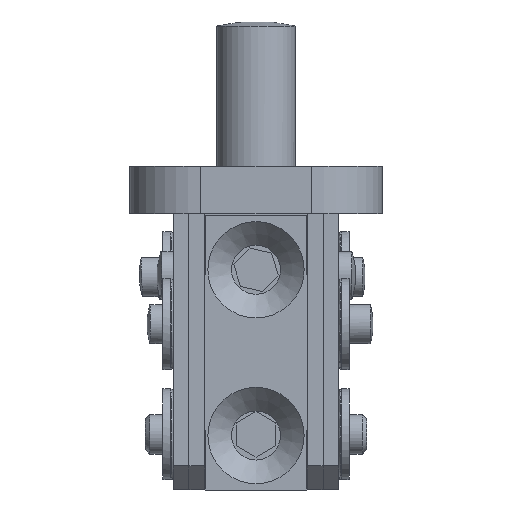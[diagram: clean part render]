
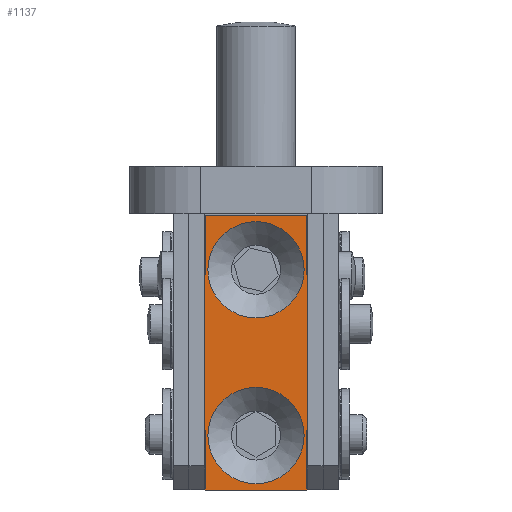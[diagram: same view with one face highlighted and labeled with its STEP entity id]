
A CAD part, left-side view. The second image highlights one B-rep face of the part: STEP entity #1137.
In plain terms, the highlighted planar face has unit normal (-1, 0, 0).
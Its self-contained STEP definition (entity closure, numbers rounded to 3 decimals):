
#94 = CARTESIAN_POINT ( 'NONE',  ( -60.629, 6.45, -37.273 ) ) ;
#204 = CARTESIAN_POINT ( 'NONE',  ( -60.629, -6.45, -33.523 ) ) ;
#239 = DIRECTION ( 'NONE',  ( 0., 1., 0. ) ) ;
#359 = VECTOR ( 'NONE', #3431, 1000. ) ;
#361 = CARTESIAN_POINT ( 'NONE',  ( -60.629, -7.35, -33.523 ) ) ;
#372 = EDGE_CURVE ( 'NONE', #2809, #3444, #15196, .T. ) ;
#519 = EDGE_CURVE ( 'NONE', #1839, #2809, #15044, .T. ) ;
#647 = ORIENTED_EDGE ( 'NONE', *, *, #10215, .F. ) ;
#654 = CARTESIAN_POINT ( 'NONE',  ( -60.629, 6.45, -13.723 ) ) ;
#781 = DIRECTION ( 'NONE',  ( 0., -1., 0. ) ) ;
#802 = DIRECTION ( 'NONE',  ( 0., 0., 1. ) ) ;
#921 = VERTEX_POINT ( 'NONE', #13840 ) ;
#1061 = EDGE_CURVE ( 'NONE', #3444, #3161, #9646, .T. ) ;
#1137 = ADVANCED_FACE ( 'NONE', ( #6412, #13596, #6098 ), #8782, .T. ) ;
#1157 = DIRECTION ( 'NONE',  ( 0., 0., 1. ) ) ;
#1176 = CARTESIAN_POINT ( 'NONE',  ( -60.629, 6.45, -41.023 ) ) ;
#1246 = EDGE_CURVE ( 'NONE', #4509, #10628, #12099, .T. ) ;
#1446 = EDGE_CURVE ( 'NONE', #14964, #4509, #5730, .T. ) ;
#1479 = DIRECTION ( 'NONE',  ( 0., 1., 0. ) ) ;
#1578 = VERTEX_POINT ( 'NONE', #3803 ) ;
#1839 = VERTEX_POINT ( 'NONE', #3360 ) ;
#1863 = CIRCLE ( 'NONE', #10689, 6.1 ) ;
#2216 = EDGE_CURVE ( 'NONE', #921, #4906, #6500, .T. ) ;
#2234 = CARTESIAN_POINT ( 'NONE',  ( -60.629, -8.25, -23.623 ) ) ;
#2294 = CARTESIAN_POINT ( 'NONE',  ( -60.629, 0., -13.123 ) ) ;
#2450 = LINE ( 'NONE', #6001, #5085 ) ;
#2455 = DIRECTION ( 'NONE',  ( 1., 0., 0. ) ) ;
#2474 = VECTOR ( 'NONE', #9029, 1000. ) ;
#2623 = CARTESIAN_POINT ( 'NONE',  ( -60.629, -8.25, -13.723 ) ) ;
#2809 = VERTEX_POINT ( 'NONE', #13934 ) ;
#2929 = LINE ( 'NONE', #3158, #12216 ) ;
#3158 = CARTESIAN_POINT ( 'NONE',  ( -60.629, -6.45, -37.273 ) ) ;
#3161 = VERTEX_POINT ( 'NONE', #6887 ) ;
#3266 = CARTESIAN_POINT ( 'NONE',  ( -60.629, 8.25, -23.623 ) ) ;
#3269 = DIRECTION ( 'NONE',  ( 0., -1., 0. ) ) ;
#3360 = CARTESIAN_POINT ( 'NONE',  ( -60.629, -6.45, -6.223 ) ) ;
#3431 = DIRECTION ( 'NONE',  ( 0., 0., -1. ) ) ;
#3444 = VERTEX_POINT ( 'NONE', #2623 ) ;
#3489 = DIRECTION ( 'NONE',  ( 0., 1., 0. ) ) ;
#3511 = ORIENTED_EDGE ( 'NONE', *, *, #8885, .T. ) ;
#3538 = EDGE_LOOP ( 'NONE', ( #6432 ) ) ;
#3803 = CARTESIAN_POINT ( 'NONE',  ( -60.629, 0., -28.023 ) ) ;
#3935 = ORIENTED_EDGE ( 'NONE', *, *, #519, .F. ) ;
#4235 = CARTESIAN_POINT ( 'NONE',  ( -60.629, -6.45, -9.973 ) ) ;
#4276 = CARTESIAN_POINT ( 'NONE',  ( -60.629, 6.45, -6.223 ) ) ;
#4386 = ORIENTED_EDGE ( 'NONE', *, *, #10471, .F. ) ;
#4509 = VERTEX_POINT ( 'NONE', #1176 ) ;
#4791 = EDGE_LOOP ( 'NONE', ( #10373, #8950, #3935, #7027, #14752, #11909, #5092, #647, #9287, #13262, #8168, #4386, #11585, #6353 ) ) ;
#4896 = CARTESIAN_POINT ( 'NONE',  ( -60.629, 0., -7.023 ) ) ;
#4906 = VERTEX_POINT ( 'NONE', #204 ) ;
#4977 = DIRECTION ( 'NONE',  ( 0., 0., 1. ) ) ;
#5034 = LINE ( 'NONE', #361, #8645 ) ;
#5071 = DIRECTION ( 'NONE',  ( 0., 0., 1. ) ) ;
#5085 = VECTOR ( 'NONE', #3489, 1000. ) ;
#5092 = ORIENTED_EDGE ( 'NONE', *, *, #10725, .F. ) ;
#5472 = LINE ( 'NONE', #7842, #7965 ) ;
#5482 = DIRECTION ( 'NONE',  ( 0., -1., 0. ) ) ;
#5730 = LINE ( 'NONE', #15063, #12342 ) ;
#6001 = CARTESIAN_POINT ( 'NONE',  ( -60.629, 7.35, -33.523 ) ) ;
#6006 = CARTESIAN_POINT ( 'NONE',  ( -60.629, 8.25, -13.723 ) ) ;
#6026 = VECTOR ( 'NONE', #5071, 1000. ) ;
#6098 = FACE_OUTER_BOUND ( 'NONE', #4791, .T. ) ;
#6102 = VERTEX_POINT ( 'NONE', #654 ) ;
#6180 = DIRECTION ( 'NONE',  ( -1., 0., 0. ) ) ;
#6235 = CARTESIAN_POINT ( 'NONE',  ( -60.629, 6.45, -33.523 ) ) ;
#6321 = CARTESIAN_POINT ( 'NONE',  ( -60.629, 0., -33.523 ) ) ;
#6353 = ORIENTED_EDGE ( 'NONE', *, *, #15349, .F. ) ;
#6412 = FACE_BOUND ( 'NONE', #3538, .T. ) ;
#6422 = VECTOR ( 'NONE', #4977, 1000. ) ;
#6432 = ORIENTED_EDGE ( 'NONE', *, *, #11971, .T. ) ;
#6452 = EDGE_CURVE ( 'NONE', #13466, #1839, #5472, .T. ) ;
#6500 = LINE ( 'NONE', #7601, #13570 ) ;
#6537 = VERTEX_POINT ( 'NONE', #15345 ) ;
#6538 = VERTEX_POINT ( 'NONE', #14162 ) ;
#6656 = LINE ( 'NONE', #3266, #11976 ) ;
#6674 = VECTOR ( 'NONE', #239, 1000. ) ;
#6887 = CARTESIAN_POINT ( 'NONE',  ( -60.629, -8.25, -33.523 ) ) ;
#7027 = ORIENTED_EDGE ( 'NONE', *, *, #6452, .F. ) ;
#7259 = VECTOR ( 'NONE', #5482, 1000. ) ;
#7601 = CARTESIAN_POINT ( 'NONE',  ( -60.629, -7.35, -33.523 ) ) ;
#7842 = CARTESIAN_POINT ( 'NONE',  ( -60.629, 0., -6.223 ) ) ;
#7965 = VECTOR ( 'NONE', #3269, 1000. ) ;
#8007 = CARTESIAN_POINT ( 'NONE',  ( -60.629, -7.35, -13.723 ) ) ;
#8036 = CARTESIAN_POINT ( 'NONE',  ( -60.629, -6.45, -41.023 ) ) ;
#8168 = ORIENTED_EDGE ( 'NONE', *, *, #1446, .F. ) ;
#8445 = VERTEX_POINT ( 'NONE', #4896 ) ;
#8645 = VECTOR ( 'NONE', #1479, 1000. ) ;
#8782 = PLANE ( 'NONE',  #15612 ) ;
#8862 = VERTEX_POINT ( 'NONE', #6006 ) ;
#8885 = EDGE_CURVE ( 'NONE', #8445, #8445, #1863, .T. ) ;
#8950 = ORIENTED_EDGE ( 'NONE', *, *, #372, .F. ) ;
#9029 = DIRECTION ( 'NONE',  ( 0., 0., -1. ) ) ;
#9287 = ORIENTED_EDGE ( 'NONE', *, *, #12782, .F. ) ;
#9372 = DIRECTION ( 'NONE',  ( 1., 0., 0. ) ) ;
#9646 = LINE ( 'NONE', #2234, #359 ) ;
#9801 = CARTESIAN_POINT ( 'NONE',  ( -60.629, 0., -23.623 ) ) ;
#10156 = AXIS2_PLACEMENT_3D ( 'NONE', #15387, #9372, #1157 ) ;
#10215 = EDGE_CURVE ( 'NONE', #6537, #6538, #12244, .T. ) ;
#10318 = EDGE_CURVE ( 'NONE', #6102, #13466, #13348, .T. ) ;
#10339 = LINE ( 'NONE', #11529, #13603 ) ;
#10373 = ORIENTED_EDGE ( 'NONE', *, *, #1061, .F. ) ;
#10471 = EDGE_CURVE ( 'NONE', #4906, #14964, #2929, .T. ) ;
#10628 = VERTEX_POINT ( 'NONE', #6235 ) ;
#10689 = AXIS2_PLACEMENT_3D ( 'NONE', #2294, #2455, #11770 ) ;
#10703 = EDGE_LOOP ( 'NONE', ( #3511 ) ) ;
#10725 = EDGE_CURVE ( 'NONE', #6538, #8862, #6656, .T. ) ;
#11529 = CARTESIAN_POINT ( 'NONE',  ( -60.629, 7.35, -13.723 ) ) ;
#11585 = ORIENTED_EDGE ( 'NONE', *, *, #2216, .F. ) ;
#11770 = DIRECTION ( 'NONE',  ( 0., 0., 1. ) ) ;
#11909 = ORIENTED_EDGE ( 'NONE', *, *, #13400, .F. ) ;
#11971 = EDGE_CURVE ( 'NONE', #1578, #1578, #14694, .T. ) ;
#11976 = VECTOR ( 'NONE', #802, 1000. ) ;
#12099 = LINE ( 'NONE', #94, #6026 ) ;
#12163 = CARTESIAN_POINT ( 'NONE',  ( -60.629, 6.45, -9.973 ) ) ;
#12216 = VECTOR ( 'NONE', #12553, 1000. ) ;
#12244 = LINE ( 'NONE', #6321, #6674 ) ;
#12342 = VECTOR ( 'NONE', #14024, 1000. ) ;
#12553 = DIRECTION ( 'NONE',  ( 0., 0., -1. ) ) ;
#12782 = EDGE_CURVE ( 'NONE', #10628, #6537, #2450, .T. ) ;
#13262 = ORIENTED_EDGE ( 'NONE', *, *, #1246, .F. ) ;
#13348 = LINE ( 'NONE', #12163, #6422 ) ;
#13400 = EDGE_CURVE ( 'NONE', #8862, #6102, #10339, .T. ) ;
#13453 = DIRECTION ( 'NONE',  ( 0., 1., 0. ) ) ;
#13466 = VERTEX_POINT ( 'NONE', #4276 ) ;
#13570 = VECTOR ( 'NONE', #13453, 1000. ) ;
#13596 = FACE_BOUND ( 'NONE', #10703, .T. ) ;
#13603 = VECTOR ( 'NONE', #781, 1000. ) ;
#13840 = CARTESIAN_POINT ( 'NONE',  ( -60.629, -6.5, -33.523 ) ) ;
#13934 = CARTESIAN_POINT ( 'NONE',  ( -60.629, -6.45, -13.723 ) ) ;
#14024 = DIRECTION ( 'NONE',  ( 0., 1., 0. ) ) ;
#14162 = CARTESIAN_POINT ( 'NONE',  ( -60.629, 8.25, -33.523 ) ) ;
#14544 = DIRECTION ( 'NONE',  ( 0., 0., 1. ) ) ;
#14694 = CIRCLE ( 'NONE', #10156, 6.1 ) ;
#14752 = ORIENTED_EDGE ( 'NONE', *, *, #10318, .F. ) ;
#14964 = VERTEX_POINT ( 'NONE', #8036 ) ;
#15044 = LINE ( 'NONE', #4235, #2474 ) ;
#15063 = CARTESIAN_POINT ( 'NONE',  ( -60.629, 0., -41.023 ) ) ;
#15196 = LINE ( 'NONE', #8007, #7259 ) ;
#15345 = CARTESIAN_POINT ( 'NONE',  ( -60.629, 6.5, -33.523 ) ) ;
#15349 = EDGE_CURVE ( 'NONE', #3161, #921, #5034, .T. ) ;
#15387 = CARTESIAN_POINT ( 'NONE',  ( -60.629, 0., -34.123 ) ) ;
#15612 = AXIS2_PLACEMENT_3D ( 'NONE', #9801, #6180, #14544 ) ;
